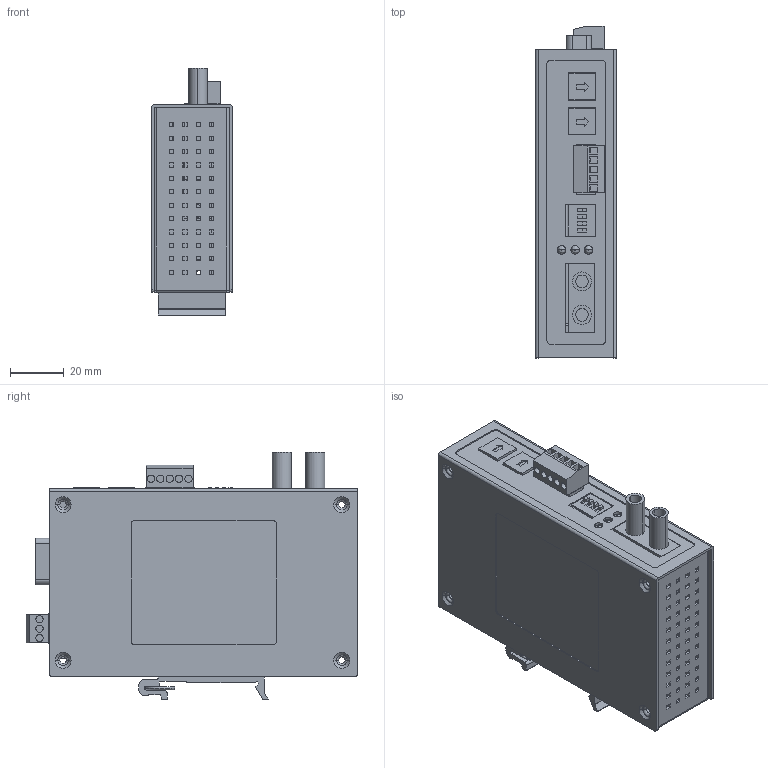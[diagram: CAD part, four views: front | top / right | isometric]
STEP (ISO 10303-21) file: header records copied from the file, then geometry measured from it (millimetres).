
FILE_DESCRIPTION((''),'2;1');
FILE_NAME('ICF-1150-M-ST_3D','2013-12-29T',('Vincent_Huang'),(''),'PRO/ENGINEER BY PARAMETRIC TECHNOLOGY CORPORATION, 2004320','PRO/ENGINEER BY PARAMETRIC TECHNOLOGY CORPORATION, 2004320','');
FILE_SCHEMA(('CONFIG_CONTROL_DESIGN'));
Length unit declared in the file: millimetre
Products named in the file (1): ICF-1150-M-ST_3D
Bounding box: 30.3 x 123.8 x 92.46 mm (x, y, z)
Volume: 62551.2 mm3; surface area: 93272.3 mm2
Topology: 12 solids, 20 shells, 1348 faces, 3499 edges, 2279 vertices
Faces by surface type: plane 874, cylinder 390, torus 58, cone 20, bspline 6
Entity records: 41694 total; most frequent: CARTESIAN_POINT 7288, DIRECTION 7244, ORIENTED_EDGE 6998, EDGE_CURVE 3499, VECTOR 2438, LINE 2438, AXIS2_PLACEMENT_3D 2403, VERTEX_POINT 2279
